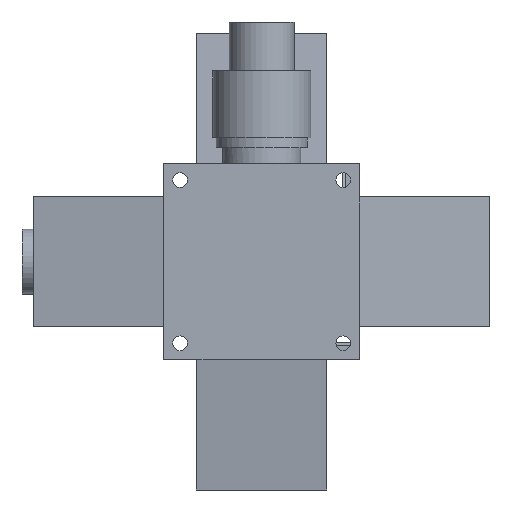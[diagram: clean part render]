
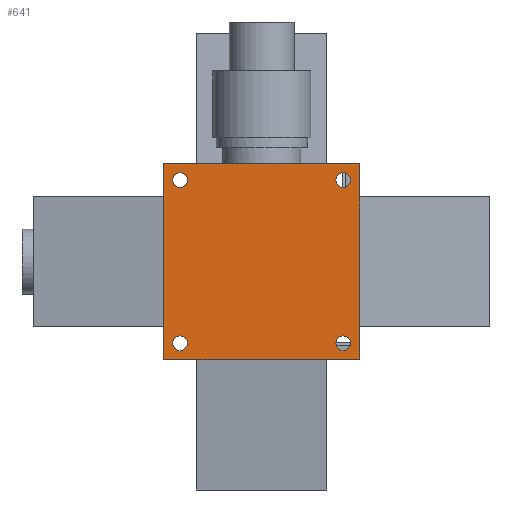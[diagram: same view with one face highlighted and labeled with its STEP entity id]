
A CAD part, front view. The second image highlights one B-rep face of the part: STEP entity #641.
In plain terms, the highlighted planar face has unit normal (0, -1, 0).
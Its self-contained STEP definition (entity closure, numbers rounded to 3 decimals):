
#10 = EDGE_CURVE ( 'NONE', #149, #148, #2776, .T. ) ;
#16 = EDGE_CURVE ( 'NONE', #49, #48, #2758, .T. ) ;
#22 = VERTEX_POINT ( 'NONE', #2748 ) ;
#23 = VERTEX_POINT ( 'NONE', #2747 ) ;
#36 = EDGE_CURVE ( 'NONE', #37, #632, #2728, .T. ) ;
#37 = VERTEX_POINT ( 'NONE', #2724 ) ;
#47 = EDGE_CURVE ( 'NONE', #48, #49, #2705, .T. ) ;
#48 = VERTEX_POINT ( 'NONE', #2701 ) ;
#49 = VERTEX_POINT ( 'NONE', #2700 ) ;
#54 = EDGE_CURVE ( 'NONE', #23, #22, #2693, .T. ) ;
#72 = EDGE_CURVE ( 'NONE', #83, #82, #2620, .T. ) ;
#81 = EDGE_CURVE ( 'NONE', #82, #83, #2593, .T. ) ;
#82 = VERTEX_POINT ( 'NONE', #3054 ) ;
#83 = VERTEX_POINT ( 'NONE', #3055 ) ;
#147 = EDGE_CURVE ( 'NONE', #148, #149, #2966, .T. ) ;
#148 = VERTEX_POINT ( 'NONE', #2961 ) ;
#149 = VERTEX_POINT ( 'NONE', #2960 ) ;
#172 = EDGE_CURVE ( 'NONE', #22, #23, #3057, .T. ) ;
#511 = ORIENTED_EDGE ( 'NONE', *, *, #47, .T. ) ;
#512 = EDGE_LOOP ( 'NONE', ( #513, #514 ) ) ;
#513 = ORIENTED_EDGE ( 'NONE', *, *, #72, .T. ) ;
#514 = ORIENTED_EDGE ( 'NONE', *, *, #81, .T. ) ;
#515 = EDGE_LOOP ( 'NONE', ( #516, #519, #522, #524 ) ) ;
#516 = ORIENTED_EDGE ( 'NONE', *, *, #517, .T. ) ;
#517 = EDGE_CURVE ( 'NONE', #632, #518, #3692, .T. ) ;
#518 = VERTEX_POINT ( 'NONE', #3688 ) ;
#519 = ORIENTED_EDGE ( 'NONE', *, *, #520, .T. ) ;
#520 = EDGE_CURVE ( 'NONE', #518, #521, #3687, .T. ) ;
#521 = VERTEX_POINT ( 'NONE', #3667 ) ;
#522 = ORIENTED_EDGE ( 'NONE', *, *, #523, .T. ) ;
#523 = EDGE_CURVE ( 'NONE', #521, #37, #3666, .T. ) ;
#524 = ORIENTED_EDGE ( 'NONE', *, *, #36, .T. ) ;
#573 = ORIENTED_EDGE ( 'NONE', *, *, #172, .T. ) ;
#574 = EDGE_LOOP ( 'NONE', ( #575, #511 ) ) ;
#575 = ORIENTED_EDGE ( 'NONE', *, *, #16, .T. ) ;
#632 = VERTEX_POINT ( 'NONE', #3730 ) ;
#641 = ADVANCED_FACE ( 'NONE', ( #3845, #3844, #3843, #3842, #3841 ), #3840, .F. ) ;
#642 = EDGE_LOOP ( 'NONE', ( #643, #644 ) ) ;
#643 = ORIENTED_EDGE ( 'NONE', *, *, #10, .T. ) ;
#644 = ORIENTED_EDGE ( 'NONE', *, *, #147, .T. ) ;
#645 = EDGE_LOOP ( 'NONE', ( #646, #573 ) ) ;
#646 = ORIENTED_EDGE ( 'NONE', *, *, #54, .T. ) ;
#2593 = CIRCLE ( 'NONE', #2869, 2.25 ) ;
#2611 = DIRECTION ( 'NONE',  ( -1., 0., 0. ) ) ;
#2612 = DIRECTION ( 'NONE',  ( 0., 1., 0. ) ) ;
#2613 = CARTESIAN_POINT ( 'NONE',  ( -25., 0., -25. ) ) ;
#2614 = AXIS2_PLACEMENT_3D ( 'NONE', #2613, #2612, #2611 ) ;
#2620 = CIRCLE ( 'NONE', #2614, 2.25 ) ;
#2689 = DIRECTION ( 'NONE',  ( -1., 0., 0. ) ) ;
#2690 = DIRECTION ( 'NONE',  ( 0., 1., 0. ) ) ;
#2691 = CARTESIAN_POINT ( 'NONE',  ( 25., 0., 25. ) ) ;
#2692 = AXIS2_PLACEMENT_3D ( 'NONE', #2691, #2690, #2689 ) ;
#2693 = CIRCLE ( 'NONE', #2692, 2.25 ) ;
#2700 = CARTESIAN_POINT ( 'NONE',  ( 22.75, 0., -25. ) ) ;
#2701 = CARTESIAN_POINT ( 'NONE',  ( 27.25, 0., -25. ) ) ;
#2702 = DIRECTION ( 'NONE',  ( -1., 0., 0. ) ) ;
#2703 = DIRECTION ( 'NONE',  ( 0., 1., 0. ) ) ;
#2704 = AXIS2_PLACEMENT_3D ( 'NONE', #2711, #2703, #2702 ) ;
#2705 = CIRCLE ( 'NONE', #2704, 2.25 ) ;
#2711 = CARTESIAN_POINT ( 'NONE',  ( 25., 0., -25. ) ) ;
#2724 = CARTESIAN_POINT ( 'NONE',  ( -30., 0., -30. ) ) ;
#2725 = DIRECTION ( 'NONE',  ( 1., 0., 0. ) ) ;
#2726 = VECTOR ( 'NONE', #2725, 1000. ) ;
#2727 = CARTESIAN_POINT ( 'NONE',  ( 30., 0., -30. ) ) ;
#2728 = LINE ( 'NONE', #2727, #2726 ) ;
#2747 = CARTESIAN_POINT ( 'NONE',  ( 22.75, 0., 25. ) ) ;
#2748 = CARTESIAN_POINT ( 'NONE',  ( 27.25, 0., 25. ) ) ;
#2755 = DIRECTION ( 'NONE',  ( -1., 0., 0. ) ) ;
#2756 = DIRECTION ( 'NONE',  ( 0., 1., 0. ) ) ;
#2757 = AXIS2_PLACEMENT_3D ( 'NONE', #2764, #2756, #2755 ) ;
#2758 = CIRCLE ( 'NONE', #2757, 2.25 ) ;
#2764 = CARTESIAN_POINT ( 'NONE',  ( 25., 0., -25. ) ) ;
#2772 = DIRECTION ( 'NONE',  ( -1., 0., 0. ) ) ;
#2773 = DIRECTION ( 'NONE',  ( 0., 1., 0. ) ) ;
#2774 = CARTESIAN_POINT ( 'NONE',  ( -25., 0., 25. ) ) ;
#2775 = AXIS2_PLACEMENT_3D ( 'NONE', #2774, #2773, #2772 ) ;
#2776 = CIRCLE ( 'NONE', #2775, 2.25 ) ;
#2869 = AXIS2_PLACEMENT_3D ( 'NONE', #2871, #2870, #3056 ) ;
#2870 = DIRECTION ( 'NONE',  ( 0., 1., 0. ) ) ;
#2871 = CARTESIAN_POINT ( 'NONE',  ( -25., 0., -25. ) ) ;
#2960 = CARTESIAN_POINT ( 'NONE',  ( -27.25, 0., 25. ) ) ;
#2961 = CARTESIAN_POINT ( 'NONE',  ( -22.75, 0., 25. ) ) ;
#2962 = DIRECTION ( 'NONE',  ( -1., 0., 0. ) ) ;
#2963 = DIRECTION ( 'NONE',  ( 0., 1., 0. ) ) ;
#2964 = CARTESIAN_POINT ( 'NONE',  ( -25., 0., 25. ) ) ;
#2965 = AXIS2_PLACEMENT_3D ( 'NONE', #2964, #2963, #2962 ) ;
#2966 = CIRCLE ( 'NONE', #2965, 2.25 ) ;
#3027 = DIRECTION ( 'NONE',  ( -1., 0., 0. ) ) ;
#3028 = DIRECTION ( 'NONE',  ( 0., 1., 0. ) ) ;
#3029 = AXIS2_PLACEMENT_3D ( 'NONE', #3063, #3028, #3027 ) ;
#3054 = CARTESIAN_POINT ( 'NONE',  ( -22.75, 0., -25. ) ) ;
#3055 = CARTESIAN_POINT ( 'NONE',  ( -27.25, 0., -25. ) ) ;
#3056 = DIRECTION ( 'NONE',  ( -1., 0., 0. ) ) ;
#3057 = CIRCLE ( 'NONE', #3029, 2.25 ) ;
#3063 = CARTESIAN_POINT ( 'NONE',  ( 25., 0., 25. ) ) ;
#3663 = DIRECTION ( 'NONE',  ( 0., 0., -1. ) ) ;
#3664 = VECTOR ( 'NONE', #3663, 1000. ) ;
#3665 = CARTESIAN_POINT ( 'NONE',  ( -30., 0., 30. ) ) ;
#3666 = LINE ( 'NONE', #3665, #3664 ) ;
#3667 = CARTESIAN_POINT ( 'NONE',  ( -30., 0., 30. ) ) ;
#3668 = DIRECTION ( 'NONE',  ( -1., 0., 0. ) ) ;
#3685 = VECTOR ( 'NONE', #3668, 1000. ) ;
#3686 = CARTESIAN_POINT ( 'NONE',  ( 30., 0., 30. ) ) ;
#3687 = LINE ( 'NONE', #3686, #3685 ) ;
#3688 = CARTESIAN_POINT ( 'NONE',  ( 30., 0., 30. ) ) ;
#3689 = DIRECTION ( 'NONE',  ( 0., 0., 1. ) ) ;
#3690 = VECTOR ( 'NONE', #3689, 1000. ) ;
#3691 = CARTESIAN_POINT ( 'NONE',  ( 30., 0., 30. ) ) ;
#3692 = LINE ( 'NONE', #3691, #3690 ) ;
#3730 = CARTESIAN_POINT ( 'NONE',  ( 30., 0., -30. ) ) ;
#3836 = DIRECTION ( 'NONE',  ( -1., 0., 0. ) ) ;
#3837 = DIRECTION ( 'NONE',  ( 0., 1., 0. ) ) ;
#3838 = CARTESIAN_POINT ( 'NONE',  ( 30., 0., 30. ) ) ;
#3839 = AXIS2_PLACEMENT_3D ( 'NONE', #3838, #3837, #3836 ) ;
#3840 = PLANE ( 'NONE',  #3839 ) ;
#3841 = FACE_OUTER_BOUND ( 'NONE', #515, .T. ) ;
#3842 = FACE_BOUND ( 'NONE', #512, .T. ) ;
#3843 = FACE_BOUND ( 'NONE', #574, .T. ) ;
#3844 = FACE_BOUND ( 'NONE', #645, .T. ) ;
#3845 = FACE_BOUND ( 'NONE', #642, .T. ) ;
